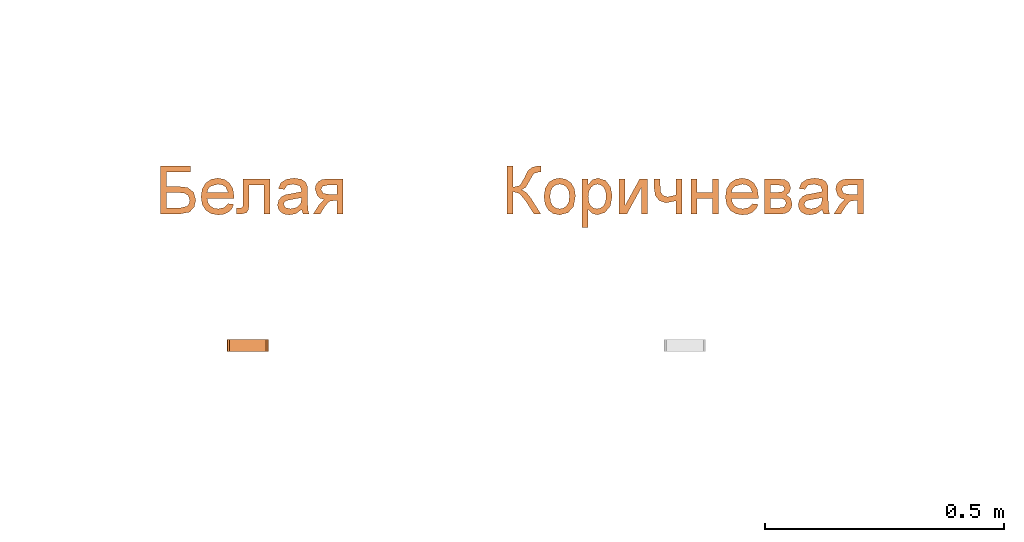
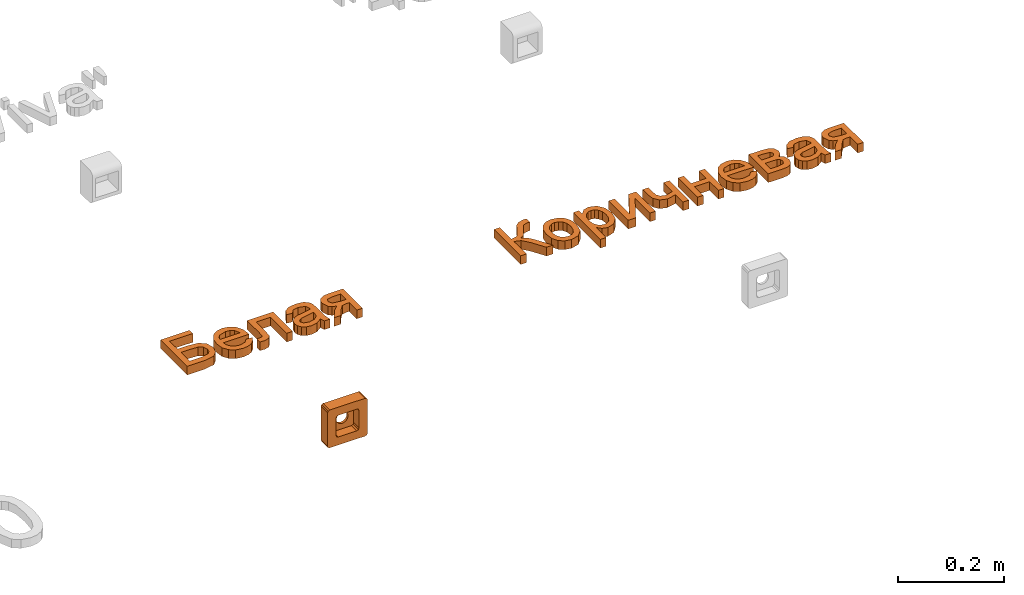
# One storey, part 58 of 87: 3 proxies.
"""IFC2X3 building model written with IfcOpenShell, lengths in millimetres."""

from ifc_helpers import new_model, entity, si_unit, converted_unit, derived_unit, direction, frame, origin, place, context, subcontext, project, spatial, polyline, outline, extrude, faceted_brep, source, transform, mapped, material, type_object, type_shapes, element, save


model = new_model("IFC2X3")

# Units and contexts
model_context = context("Model", 3, precision=0.01, world=origin(), true_north=direction((6.12303176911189e-17, 1.0)))
body_context = subcontext(model_context, "Body", "Model", "MODEL_VIEW")
ifc_project = project(units=[si_unit("LENGTHUNIT", "METRE", prefix="MILLI"), si_unit("AREAUNIT", "SQUARE_METRE"), si_unit("VOLUMEUNIT", "CUBIC_METRE"), converted_unit("PLANEANGLEUNIT", "DEGREE", entity("IfcRatioMeasure", 0.0174532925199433), si_unit("PLANEANGLEUNIT", "RADIAN"), dimensions=[0, 0, 0, 0, 0, 0, 0]), si_unit("MASSUNIT", "GRAM", prefix="KILO"), derived_unit("MASSDENSITYUNIT", [(si_unit("MASSUNIT", "GRAM", prefix="KILO"), 1), (si_unit("LENGTHUNIT", "METRE"), -3)]), si_unit("TIMEUNIT", "SECOND"), si_unit("FREQUENCYUNIT", "HERTZ"), si_unit("THERMODYNAMICTEMPERATUREUNIT", "DEGREE_CELSIUS"), derived_unit("THERMALTRANSMITTANCEUNIT", [(si_unit("MASSUNIT", "GRAM", prefix="KILO"), 1), (si_unit("THERMODYNAMICTEMPERATUREUNIT", "KELVIN"), -1), (si_unit("TIMEUNIT", "SECOND"), -3)]), derived_unit("VOLUMETRICFLOWRATEUNIT", [(si_unit("LENGTHUNIT", "METRE"), 3), (si_unit("TIMEUNIT", "SECOND"), -1)]), si_unit("ELECTRICCURRENTUNIT", "AMPERE"), si_unit("ELECTRICVOLTAGEUNIT", "VOLT"), si_unit("POWERUNIT", "WATT"), si_unit("FORCEUNIT", "NEWTON", prefix="KILO"), si_unit("ILLUMINANCEUNIT", "LUX"), si_unit("LUMINOUSFLUXUNIT", "LUMEN"), si_unit("LUMINOUSINTENSITYUNIT", "CANDELA"), derived_unit("USERDEFINED", [(si_unit("MASSUNIT", "GRAM", prefix="KILO"), -1), (si_unit("LENGTHUNIT", "METRE"), -2), (si_unit("TIMEUNIT", "SECOND"), 3), (si_unit("LUMINOUSFLUXUNIT", "LUMEN"), 1)]), derived_unit("LINEARVELOCITYUNIT", [(si_unit("LENGTHUNIT", "METRE"), 1), (si_unit("TIMEUNIT", "SECOND"), -1)]), si_unit("PRESSUREUNIT", "PASCAL"), derived_unit("USERDEFINED", [(si_unit("LENGTHUNIT", "METRE"), -2), (si_unit("MASSUNIT", "GRAM", prefix="KILO"), 1), (si_unit("TIMEUNIT", "SECOND"), -2)])], contexts=[model_context])

# Site, building, storey
site_placement = place(None, origin())
site = spatial("IfcSite", under=ifc_project, at=site_placement, Name="Default", CompositionType="ELEMENT")
building_placement = place(site_placement, origin())
building = spatial("IfcBuilding", under=site, at=building_placement, Name="Наименование здания", CompositionType="ELEMENT")
storey_placement = place(building_placement, origin())
storey = spatial("IfcBuildingStorey", under=building, at=storey_placement, Name="Этаж 01", CompositionType="ELEMENT", Elevation=0.0)

# Proxies
ifc_material = material(Name="DKC_Пластик_Белый")
building_element_proxy_type = type_object("IfcBuildingElementProxyType", Name="Белая", PredefinedType="NOTDEFINED", material=ifc_material)
shared_shape = source(origin(), body_context, "Body", "Brep", [
    faceted_brep([(43.5000000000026, 0.0, 38.4999999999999), (42.0355339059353, 0.0, 42.0355339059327), (38.5000000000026, 0.0, 43.4999999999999), (23.5355339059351, 0.0, 23.5355339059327), (25.0, 0.0, 20.0), (25.0, 0.0, -20.0), (43.5000000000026, 0.0, -38.4999999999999), (20.0, 0.0, 25.0), (-20.0, 0.0, 25.0), (-38.5000000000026, 0.0, 43.4999999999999), (-23.5355339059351, 0.0, 23.5355339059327), (-43.5000000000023, 0.0, 38.4999999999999), (-42.0355339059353, 0.0, 42.0355339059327), (-25.0, 0.0, 20.0), (-25.0, 0.0, -20.0), (-43.5000000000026, 0.0, -38.4999999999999), (-23.5355339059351, 0.0, -23.5355339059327), (-38.5000000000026, 0.0, -43.4999999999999), (-42.0355339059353, 0.0, -42.0355339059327), (-20.0, 0.0, -25.0), (38.5000000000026, 0.0, -43.4999999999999), (42.0355339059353, 0.0, -42.0355339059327), (23.5355339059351, 0.0, -23.5355339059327), (20.0, 0.0, -25.0), (-42.0355339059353, 25.3999999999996, 42.0355339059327), (-38.5000000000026, 25.3999999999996, 43.4999999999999), (-43.5000000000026, 25.3999999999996, 38.4999999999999), (-8.98025612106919, 25.3999999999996, 8.98025612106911), (-6.35000000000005, 25.3999999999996, 10.9985226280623), (-3.28700187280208, 25.3999999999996, 12.2672579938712), (0.0, 25.3999999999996, 12.7), (38.5000000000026, 25.3999999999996, 43.4999999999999), (3.28700187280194, 25.3999999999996, 12.2672579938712), (6.34999999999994, 25.3999999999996, 10.9985226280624), (8.9802561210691, 25.3999999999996, 8.98025612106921), (43.5000000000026, 25.3999999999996, 38.4999999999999), (42.0355339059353, 25.3999999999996, 42.0355339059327), (10.9985226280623, 25.3999999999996, 6.35000000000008), (12.2672579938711, 25.3999999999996, 3.2870018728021), (12.7, 25.3999999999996, 0.0), (43.5000000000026, 25.3999999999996, -38.4999999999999), (12.2672579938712, 25.3999999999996, -3.28700187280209), (10.9985226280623, 25.3999999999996, -6.35000000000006), (8.98025612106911, 25.3999999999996, -8.98025612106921), (38.5000000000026, 25.3999999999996, -43.4999999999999), (42.0355339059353, 25.3999999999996, -42.0355339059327), (6.34999999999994, 25.3999999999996, -10.9985226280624), (3.28700187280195, 25.3999999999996, -12.2672579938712), (0.0, 25.3999999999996, -12.7), (-38.5000000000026, 25.3999999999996, -43.4999999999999), (-3.28700187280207, 25.3999999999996, -12.2672579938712), (-6.35000000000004, 25.3999999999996, -10.9985226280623), (-8.98025612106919, 25.3999999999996, -8.98025612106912), (-43.5000000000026, 25.3999999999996, -38.4999999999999), (-42.0355339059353, 25.3999999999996, -42.0355339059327), (-12.7, 25.3999999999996, 0.0), (-12.2672579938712, 25.3999999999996, -3.28700187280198), (-10.9985226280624, 25.3999999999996, -6.34999999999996), (-10.9985226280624, 25.3999999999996, 6.34999999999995), (-12.2672579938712, 25.3999999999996, 3.28700187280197), (-25.0, 20.0, 20.0), (-20.0, 20.0, 25.0), (-23.5355339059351, 20.0, 23.5355339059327), (-8.98025612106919, 20.0, 8.98025612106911), (-10.9985226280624, 20.0, 6.34999999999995), (-12.2672579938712, 20.0, 3.28700187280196), (-12.7, 20.0, 0.0), (-25.0, 20.0, -20.0), (-12.2672579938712, 20.0, -3.28700187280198), (-10.9985226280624, 20.0, -6.34999999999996), (-8.98025612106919, 20.0, -8.98025612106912), (-20.0, 20.0, -25.0), (-23.5355339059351, 20.0, -23.5355339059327), (-6.35000000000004, 20.0, -10.9985226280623), (-3.28700187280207, 20.0, -12.2672579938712), (0.0, 20.0, -12.7), (20.0, 20.0, -25.0), (3.28700187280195, 20.0, -12.2672579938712), (6.34999999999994, 20.0, -10.9985226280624), (8.98025612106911, 20.0, -8.9802561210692), (25.0, 20.0, -20.0), (23.5355339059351, 20.0, -23.5355339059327), (10.9985226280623, 20.0, -6.35000000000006), (12.2672579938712, 20.0, -3.28700187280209), (12.7, 20.0, 0.0), (25.0, 20.0, 20.0), (12.2672579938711, 20.0, 3.2870018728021), (10.9985226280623, 20.0, 6.35000000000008), (8.9802561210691, 20.0, 8.98025612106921), (20.0, 20.0, 25.0), (23.5355339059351, 20.0, 23.5355339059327), (0.0, 20.0, 12.7), (6.34999999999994, 20.0, 10.9985226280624), (3.28700187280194, 20.0, 12.2672579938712), (-6.35000000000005, 20.0, 10.9985226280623), (-3.28700187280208, 20.0, 12.2672579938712)], [[[0, 1, 2]], [[0, 2, 3]], [[3, 4, 0]], [[0, 4, 5]], [[6, 0, 5]], [[7, 3, 2]], [[2, 8, 7]], [[8, 2, 9]], [[10, 8, 9]], [[9, 11, 10]], [[9, 12, 11]], [[13, 10, 11]], [[13, 11, 14]], [[14, 11, 15]], [[16, 14, 15]], [[15, 17, 16]], [[17, 15, 18]], [[19, 16, 17]], [[19, 17, 20]], [[6, 20, 21]], [[20, 6, 22]], [[22, 23, 20]], [[20, 23, 19]], [[5, 22, 6]], [[24, 25, 26]], [[26, 25, 27]], [[28, 27, 25]], [[29, 28, 25]], [[30, 29, 25]], [[25, 31, 30]], [[32, 30, 31]], [[33, 32, 31]], [[33, 31, 34]], [[35, 34, 31]], [[31, 36, 35]], [[37, 34, 35]], [[38, 37, 35]], [[38, 35, 39]], [[39, 35, 40]], [[41, 39, 40]], [[42, 41, 40]], [[40, 43, 42]], [[44, 43, 40]], [[44, 40, 45]], [[46, 43, 44]], [[46, 44, 47]], [[48, 47, 44]], [[48, 44, 49]], [[49, 50, 48]], [[51, 50, 49]], [[52, 51, 49]], [[49, 53, 52]], [[49, 54, 53]], [[55, 53, 26]], [[53, 55, 56]], [[56, 57, 53]], [[57, 52, 53]], [[27, 58, 26]], [[58, 59, 26]], [[26, 59, 55]], [[9, 2, 31, 25]], [[9, 25, 24, 12]], [[24, 26, 11, 12]], [[15, 11, 26, 53]], [[15, 53, 54, 18]], [[54, 49, 17, 18]], [[20, 17, 49, 44]], [[20, 44, 45, 21]], [[45, 40, 6, 21]], [[0, 6, 40, 35]], [[0, 35, 36, 1]], [[36, 31, 2, 1]], [[60, 61, 62]], [[63, 61, 60]], [[60, 64, 63]], [[60, 65, 64]], [[66, 65, 60]], [[60, 67, 66]], [[68, 66, 67]], [[67, 69, 68]], [[67, 70, 69]], [[70, 67, 71]], [[67, 72, 71]], [[71, 73, 70]], [[71, 74, 73]], [[75, 74, 71]], [[71, 76, 75]], [[76, 77, 75]], [[77, 76, 78]], [[76, 79, 78]], [[80, 79, 76]], [[81, 80, 76]], [[82, 79, 80]], [[80, 83, 82]], [[80, 84, 83]], [[80, 85, 84]], [[84, 85, 86]], [[85, 87, 86]], [[85, 88, 87]], [[89, 88, 85]], [[85, 90, 89]], [[91, 89, 61]], [[88, 89, 92]], [[89, 93, 92]], [[89, 91, 93]], [[61, 63, 94]], [[61, 94, 95]], [[61, 95, 91]], [[89, 7, 8, 61]], [[10, 62, 61, 8]], [[13, 60, 62, 10]], [[60, 13, 14, 67]], [[16, 72, 67, 14]], [[19, 71, 72, 16]], [[71, 19, 23, 76]], [[22, 81, 76, 23]], [[5, 80, 81, 22]], [[80, 5, 4, 85]], [[3, 90, 85, 4]], [[7, 89, 90, 3]], [[55, 66, 68, 56]], [[56, 68, 69, 57]], [[51, 52, 70, 73]], [[70, 52, 57, 69]], [[50, 51, 73, 74]], [[50, 74, 75, 48]], [[48, 75, 77, 47]], [[47, 77, 78, 46]], [[42, 43, 79, 82]], [[79, 43, 46, 78]], [[41, 42, 82, 83]], [[41, 83, 84, 39]], [[39, 84, 86, 38]], [[38, 86, 87, 37]], [[33, 34, 88, 92]], [[88, 34, 37, 87]], [[32, 33, 92, 93]], [[32, 93, 91, 30]], [[30, 91, 95, 29]], [[29, 95, 94, 28]], [[58, 27, 63, 64]], [[63, 27, 28, 94]], [[59, 58, 64, 65]], [[59, 65, 66, 55]]]),
])
type_shapes(building_element_proxy_type, [shared_shape])
proxy_1_placement = place(storey_placement, frame((44616.893252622, 2221.32487936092, 0.0)))
element("IfcBuildingElementProxy", 1, at=proxy_1_placement, inside=storey, type_object=building_element_proxy_type, material=ifc_material, Name="КНС_КоробкаМонтажнаяПод2МодуляЭлектроустановочныхИзделийPDD-N60_ILF_DKC:Белая", ObjectType="Белая", context=body_context, shape_type="MappedRepresentation", body=[
    mapped(shared_shape, transform((0.0, 0.0, 0.0), scale=1.0)),
])
proxy_2_placement = place(storey_placement, origin())
element("IfcBuildingElementProxy", 2, at=proxy_2_placement, inside=storey, Name="Текст модели:100 мм Arial", ObjectType="Текст модели:100 мм Arial", context=body_context, shape_type="SweptSolid", body=[
    extrude(outline(polyline([(-50.9950475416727, -42.7620371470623), (49.4612626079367, -42.7620371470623), (49.4612626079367, -4.42873324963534), (45.2428823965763, 17.8649156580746), (34.3658380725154, 27.7118903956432), (20.0552284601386, 31.0105656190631), (3.57411507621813, 26.3752524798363), (-6.06439319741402, 14.0389429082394), (-8.61504169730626, -6.68507615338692), (-8.61504169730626, -30.2049983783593), (-38.4380087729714, -30.2049983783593), (-38.4380087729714, 20.0231566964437), (-50.9950475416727, 20.0231566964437), (-50.9950475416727, -42.7620371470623)]), holes=[polyline([(36.9042238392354, -30.2049983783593), (3.94199707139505, -30.2049983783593), (3.94199707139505, -12.2523570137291), (5.24184678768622, 6.66904027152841), (10.4902965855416, 15.3387926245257), (20.3250085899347, 18.4535268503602), (27.5784152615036, 17.0923634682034), (32.7594200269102, 13.0088733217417), (36.9042238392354, -3.30056179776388), (36.9042238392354, -30.2049983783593)])]), frame((44477.0056436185, 2558.52790805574, 0.0), z_axis=(0.0, 0.0, 1.0), x_axis=(0.0, -1.0, 0.0)), (0.0, 0.0, 1.0), 20.0),
    extrude(outline(polyline([(-8.10128238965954, -20.375172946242), (-15.5352214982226, -30.3140016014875), (-5.78400372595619, -33.577507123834), (4.12185089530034, -33.313217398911), (13.877616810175, -29.4480778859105), (23.1785684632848, -21.909034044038), (31.6380426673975, -9.59237957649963), (34.1620486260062, 3.74135328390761), (30.6040508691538, 17.2442201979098), (20.817513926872, 30.0682768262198), (7.27698270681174, 39.7846728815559), (-6.66179525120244, 43.1117813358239), (-19.9642596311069, 40.422123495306), (-31.5958501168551, 32.0882206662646), (-39.2435519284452, 20.5090048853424), (-41.3106827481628, 7.34319797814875), (-37.4373707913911, -6.34962495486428), (-27.2637442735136, -19.5098888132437), (-24.7804584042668, -21.8106804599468), (14.4643272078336, 18.7422646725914), (19.7071986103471, 10.6437992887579), (21.1614672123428, 2.21005051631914), (19.1472085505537, -5.98136753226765), (13.9844981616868, -13.3528407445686), (3.53684605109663, -20.375172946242), (-8.10128238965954, -20.375172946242)]), holes=[polyline([(5.44081225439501, 27.4746984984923), (-25.122706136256, -4.10760383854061), (-29.8038819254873, 7.41909510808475), (-27.8851342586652, 15.7498710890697), (-22.5382240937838, 23.3910349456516), (-8.40970331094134, 31.2368652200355), (-1.08072680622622, 30.9147288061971), (5.44081225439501, 27.4746984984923)])]), frame((44555.0876915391, 2539.38919627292, 0.0), z_axis=(0.0, 0.0, -1.0), x_axis=(-0.69542142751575, -0.718602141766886, 0.0)), (0.0, 0.0, -1.0), 20.0),
    extrude(outline(polyline([(-49.3689973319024, 12.5447760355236), (-49.3689973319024, -43.9618984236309), (24.3300290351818, -43.9618984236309), (24.3300290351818, -31.404859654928), (-36.8119585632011, -31.404859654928), (-36.8119585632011, -0.0122627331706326), (-1.61791435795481, -0.0122627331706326), (14.6179443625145, 0.833865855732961), (21.4728122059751, 5.4814417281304), (24.403605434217, 16.4688506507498), (23.765943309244, 26.6714446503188), (11.8465666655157, 26.6714446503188), (11.8465666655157, 21.0551128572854), (11.0740144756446, 15.3774673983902), (8.62146784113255, 13.108861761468), (-2.32915288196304, 12.5447760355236), (-49.3689973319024, 12.5447760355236)])), frame((44619.4476655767, 2533.47025088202, 0.0), z_axis=(0.0, 0.0, -1.0), x_axis=(0.0, -1.0, 0.0)), (0.0, 0.0, -1.0), 20.0),
    extrude(outline(polyline([(32.0508237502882, 7.88266535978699), (41.9780345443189, 7.88266535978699), (45.9489188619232, 19.7953183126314), (35.1414436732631, 20.7608946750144), (14.2438893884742, 27.0545912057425), (-0.57712610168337, 31.9949297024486), (-11.1945882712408, 34.8877809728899), (-20.4974705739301, 33.9299602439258), (-28.5323068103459, 27.5470739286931), (-35.4619652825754, 13.8157249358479), (-38.3044049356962, -2.69989645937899), (-34.9462156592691, -15.3493345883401), (-25.0306383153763, -24.380769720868), (-19.570672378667, -12.964477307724), (-25.7868125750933, -4.50695904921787), (-24.0611841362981, 8.30922519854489), (-16.2279943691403, 20.3304570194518), (-6.33956174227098, 20.6794605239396), (-3.71040200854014, 19.7255176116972), (-6.50243004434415, -2.30048133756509), (-8.14662433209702, -13.2049019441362), (-7.01817966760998, -22.8490321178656), (-2.17478658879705, -31.1204151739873), (6.48825595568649, -36.5416029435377), (15.0010331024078, -37.7020395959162), (22.9495879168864, -35.3200906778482), (29.6378522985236, -29.3899394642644), (34.3697581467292, -19.9057692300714), (36.2737661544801, -6.36055543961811), (32.0508237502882, 7.88266535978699)]), holes=[polyline([(8.22551784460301, 15.8244339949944), (11.5759514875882, 14.6300664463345), (20.1614376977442, 9.67421668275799), (24.4696920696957, -0.396473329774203), (23.3024692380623, -13.3987927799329), (17.24919734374, -22.9498553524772), (9.62153186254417, -24.3497471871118), (5.58084684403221, -21.1932043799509), (3.9870641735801, -15.5044472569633), (5.47226797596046, -4.61166010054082), (8.22551784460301, 15.8244339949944)])]), frame((44711.7205041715, 2546.39778804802, 0.0), z_axis=(0.0, 0.0, 1.0), x_axis=(0.316227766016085, -0.948683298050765, 0.0)), (0.0, 0.0, 1.0), 20.0),
    extrude(outline(polyline([(-36.1880068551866, -39.1855638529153), (-3.42198381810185, -39.1855638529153), (7.43666640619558, -37.7079045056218), (15.3890488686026, -33.2749264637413), (20.2634853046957, -26.4691095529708), (21.8882974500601, -17.8729335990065), (17.1303569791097, -3.64816311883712), (11.0970922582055, 1.34890064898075), (2.51317903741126, 3.97925691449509), (13.2062823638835, 14.4271055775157), (25.8123720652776, 34.5870389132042), (11.2932959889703, 34.5870389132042), (1.28690572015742, 18.6454857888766), (-7.46868576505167, 7.92785699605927), (-16.7883629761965, 6.33370168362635), (-23.6309680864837, 6.33370168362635), (-23.6309680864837, 34.5870389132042), (-36.1880068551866, 34.5870389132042), (-36.1880068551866, -39.1855638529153)]), holes=[polyline([(-23.6309680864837, -26.628525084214), (-23.6309680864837, -6.22333708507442), (-10.7796237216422, -6.22333708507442), (4.90441200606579, -8.81077378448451), (9.33125868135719, -16.9164404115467), (6.3268890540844, -23.7222573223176), (-7.07627830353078, -26.628525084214), (-23.6309680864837, -26.628525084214)])]), frame((44779.4756522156, 2543.65368436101, 0.0), z_axis=(0.0, 0.0, 1.0), x_axis=(-1.0, 0.0, 0.0)), (0.0, 0.0, 1.0), 20.0),
])
proxy_3_placement = place(storey_placement, origin())
element("IfcBuildingElementProxy", 3, at=proxy_3_placement, inside=storey, Name="Текст модели:100 мм Arial", ObjectType="Текст модели:100 мм Arial", context=body_context, shape_type="SweptSolid", body=[
    extrude(outline(polyline([(-40.1432833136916, -39.8663907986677), (60.3130268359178, -39.8663907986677), (60.3130268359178, -27.3093520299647), (13.2241314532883, -27.3093520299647), (17.2340452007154, -14.2250157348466), (32.0106386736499, -1.65571423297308), (60.3130268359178, 16.1988252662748), (60.3130268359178, 30.766952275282), (26.8112398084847, 9.65052575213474), (14.9777022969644, 0.0917252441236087), (9.3000568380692, -9.60196532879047), (4.10065797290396, -0.932212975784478), (-24.5696121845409, 15.414010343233), (-27.5862445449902, 25.2241968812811), (-27.4390917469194, 30.766952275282), (-39.9961305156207, 30.766952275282), (-40.1432833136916, 22.5263955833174), (-37.3228546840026, 11.30599473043), (-30.3698849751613, 3.45784549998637), (-16.3290554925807, -3.47059874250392), (0.483151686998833, -13.2685225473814), (3.80635237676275, -27.3093520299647), (-40.1432833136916, -27.3093520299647), (-40.1432833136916, -39.8663907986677)])), frame((45199.7154625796, 2569.37967228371, 0.0), z_axis=(0.0, 0.0, 1.0), x_axis=(0.0, -1.0, 0.0)), (0.0, 0.0, 1.0), 20.0),
    extrude(outline(polyline([(-2.3402974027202, -31.6984909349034), (14.2731811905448, -31.6984909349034), (27.1869525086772, -26.5873672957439), (35.990959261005, -17.1811275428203), (40.2751441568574, -4.29577920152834), (38.1491713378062, 13.1690451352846), (27.2514955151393, 26.6485362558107), (5.67797919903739, 33.7446283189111), (-10.1280544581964, 33.6081083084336), (-22.8059382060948, 28.3900569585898), (-31.6389568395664, 18.9754531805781), (-35.9103951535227, 6.24927588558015), (-35.5406401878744, -5.97109031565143), (-30.8535887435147, -16.7835237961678), (-19.5870121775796, -26.5692340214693), (-2.3402974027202, -31.6984909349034)]), holes=[polyline([(-0.642949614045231, -19.2566729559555), (-11.6948097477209, -16.259966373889), (-19.0989004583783, -10.8341828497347), (-22.9822632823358, -3.67356758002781), (-23.47193975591, 4.52763423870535), (-20.7783225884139, 12.2046648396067), (-15.0781786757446, 18.035705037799), (-6.56600936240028, 21.2863283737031), (4.56368400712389, 21.2221083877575), (15.8675929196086, 18.1905150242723), (23.396189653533, 12.7474982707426), (27.3267847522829, 5.59272509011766), (27.8366887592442, -2.57413755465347), (25.1317228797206, -10.3331599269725), (19.431158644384, -16.1672368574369), (10.813449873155, -19.3753979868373), (-0.642949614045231, -19.2566729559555)])]), frame((45268.4809461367, 2547.98079413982, 0.0), z_axis=(0.0, 0.0, 1.0), x_axis=(0.13710570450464, -0.99055642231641, 0.0)), (0.0, 0.0, 1.0), 20.0),
    extrude(outline(polyline([(-28.8983569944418, -61.2335493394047), (-16.3413182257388, -61.2335493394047), (-16.3413182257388, -23.1700255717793), (-8.38280439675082, -31.324743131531), (2.54329085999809, -34.5498419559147), (18.4235303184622, -29.7305878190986), (29.9259740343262, -15.8736993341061), (33.8868368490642, 4.4701749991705), (30.3796951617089, 23.82076794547), (19.9808974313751, 37.5059781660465), (4.0638697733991, 42.3620205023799), (-7.65930313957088, 38.8916670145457), (-16.3413182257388, 28.4806065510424), (-16.3413182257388, 40.7923906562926), (-28.8983569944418, 40.7923906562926), (-28.8983569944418, -61.2335493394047)]), holes=[polyline([(-16.3413182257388, 3.3174780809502), (-14.8912500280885, 14.7064915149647), (-10.54104543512, 23.0236902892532), (-4.30851130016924, 28.1096588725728), (2.78854552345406, 29.8049817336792), (9.85801119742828, 28.2108264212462), (15.8606190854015, 23.428360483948), (19.9625033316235, 15.4453211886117), (21.3297980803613, 4.24944580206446), (19.9287808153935, -7.43080754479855), (15.7257290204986, -15.5916564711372), (9.56063991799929, -20.3925165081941), (2.27351073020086, -21.9928031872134), (-4.8971224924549, -20.4476988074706), (-10.9089274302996, -15.8123856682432), (-14.9832205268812, -7.93971097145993), (-16.3413182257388, 3.3174780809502)])]), frame((45345.7104133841, 2542.04685755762, 0.0)), (0.0, 0.0, 1.0), 20.0),
    extrude(outline(polyline([(-36.9206370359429, -29.8425874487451), (36.8519657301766, -29.8425874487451), (36.8519657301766, -13.4105249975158), (-19.0660975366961, 17.2463079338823), (36.8519657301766, 17.2463079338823), (36.8519657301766, 29.8033467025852), (-36.9206370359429, 29.8033467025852), (-36.9206370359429, 13.5674879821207), (19.3407827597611, -17.2855486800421), (-36.9206370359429, -17.2855486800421), (-36.9206370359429, -29.8425874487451)])), frame((45423.5665062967, 2545.91861117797, 0.0), z_axis=(0.0, 0.0, 1.0), x_axis=(0.0, -1.0, 0.0)), (0.0, 0.0, 1.0), 20.0),
    extrude(outline(polyline([(-30.7618325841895, -26.323489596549), (-10.4056955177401, -26.323489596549), (3.94170229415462, -24.1161976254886), (14.9658994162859, -15.7407508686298), (19.4663224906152, -1.50371765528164), (15.1498404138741, 19.1957759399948), (43.0107701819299, 19.1957759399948), (43.0107701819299, 31.7528147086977), (-30.7618325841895, 31.7528147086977), (-30.7618325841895, 19.1957759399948), (3.10783643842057, 19.1957759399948), (6.90928372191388, 1.85627123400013), (3.8436004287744, -7.85581343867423), (-3.34236121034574, -12.748643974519), (-16.6106385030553, -13.7664508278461), (-30.7618325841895, -13.7664508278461), (-30.7618325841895, -26.323489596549)])), frame((45493.8200112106, 2552.07741562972, 0.0), z_axis=(0.0, 0.0, 1.0), x_axis=(0.0, -1.0, 0.0)), (0.0, 0.0, 1.0), 20.0),
    extrude(outline(polyline([(-36.1014864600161, -29.0381521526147), (37.6711163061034, -29.0381521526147), (37.6711163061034, -16.4811133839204), (4.70888953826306, -16.4811133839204), (4.70888953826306, 16.4811133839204), (37.6711163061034, 16.4811133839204), (37.6711163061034, 29.0381521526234), (-36.1014864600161, 29.0381521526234), (-36.1014864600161, 16.4811133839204), (-7.84814923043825, 16.4811133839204), (-7.84814923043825, -16.4811133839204), (-36.1014864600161, -16.4811133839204), (-36.1014864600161, -29.0381521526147)])), frame((45573.446536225, 2546.7377617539, 0.0), z_axis=(0.0, 0.0, 1.0), x_axis=(0.0, -1.0, 0.0)), (0.0, 0.0, 1.0), 20.0),
    extrude(outline(polyline([(-8.10128238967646, -20.3751729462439), (-15.5352214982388, -30.3140016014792), (-5.78400372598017, -33.5775071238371), (4.12185089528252, -33.3132173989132), (13.8776168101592, -29.4480778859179), (23.1785684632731, -21.9090340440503), (31.6380426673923, -9.59237957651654), (34.1620486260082, 3.74135328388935), (30.604050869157, 17.2442201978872), (20.817513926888, 30.0682768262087), (7.27698270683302, 39.784672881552), (-6.66179525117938, 43.1117813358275), (-19.9642596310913, 40.4221234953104), (-31.5958501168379, 32.0882206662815), (-39.2435519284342, 20.5090048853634), (-41.3106827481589, 7.34319797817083), (-37.4373707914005, -6.34962495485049), (-27.2637442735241, -19.5098888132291), (-24.7804584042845, -21.8106804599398), (14.4643272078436, 18.7422646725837), (19.7071986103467, 10.6437992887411), (21.161467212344, 2.21005051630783), (19.1472085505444, -5.98136753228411), (13.9844981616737, -13.3528407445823), (3.53684605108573, -20.3751729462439), (-8.10128238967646, -20.3751729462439)]), holes=[polyline([(5.44081225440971, 27.4746984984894), (-25.1227061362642, -4.1076038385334), (-29.8038819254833, 7.41909510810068), (-27.8851342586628, 15.7498710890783), (-22.5382240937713, 23.3910349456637), (-8.40970331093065, 31.2368652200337), (-1.0807268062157, 30.9147288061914), (5.44081225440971, 27.4746984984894)])]), frame((45652.6954303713, 2539.38919627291, 0.0), z_axis=(0.0, 0.0, -1.0), x_axis=(-0.695421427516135, -0.718602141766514, 0.0)), (0.0, 0.0, -1.0), 20.0),
    extrude(outline(polyline([(-37.9619182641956, -40.7346098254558), (35.8106845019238, -40.7346098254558), (35.8106845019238, -8.82697811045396), (34.4801779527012, 2.14816807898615), (30.4886583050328, 10.1557328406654), (23.7502864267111, 15.2141102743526), (14.1792231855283, 17.3416944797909), (2.34568567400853, 13.9817055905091), (-4.46013123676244, 5.54494516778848), (-10.6773369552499, 12.044193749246), (-19.3961402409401, 14.2024347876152), (-30.1260317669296, 10.633979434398), (-36.2819238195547, 2.09911714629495), (-37.9619182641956, -13.0698837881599), (-37.9619182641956, -40.7346098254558)]), holes=[polyline([(-9.7085810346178, -28.1775710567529), (-25.4048794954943, -28.1775710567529), (-25.4048794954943, -15.3752776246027), (-23.663571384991, -2.2051021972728), (-17.5076793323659, 1.64539601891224), (-12.8968916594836, -0.54963321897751), (-10.3462431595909, -5.52830288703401), (-9.7085810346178, -15.7676850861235), (-9.7085810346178, -28.1775710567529)]), polyline([(23.2536457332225, -28.1775710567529), (2.84845773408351, -28.1775710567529), (2.84845773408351, -14.0018515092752), (3.58422172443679, -2.95312892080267), (7.1036261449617, 2.63867740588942), (13.1491535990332, 4.78465571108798), (20.9850400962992, 0.88510656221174), (23.2536457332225, -12.7755781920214), (23.2536457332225, -28.1775710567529)])]), frame((45738.9667188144, 2544.87732994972, 0.0), z_axis=(0.0, 0.0, 1.0), x_axis=(0.0, -1.0, 0.0)), (0.0, 0.0, 1.0), 20.0),
    extrude(outline(polyline([(32.0508237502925, 7.88266535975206), (41.9780345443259, 7.88266535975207), (45.9489188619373, 19.795318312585), (35.141443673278, 20.7608946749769), (14.2438893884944, 27.0545912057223), (-0.577126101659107, 31.9949297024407), (-11.1945882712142, 34.8877809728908), (-20.4974705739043, 33.9299602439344), (-28.5323068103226, 27.5470739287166), (-35.4619652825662, 13.8157249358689), (-38.3044049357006, -2.69989645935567), (-34.946215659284, -15.3493345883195), (-25.0306383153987, -24.3807697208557), (-19.57067237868, -12.9644773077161), (-25.7868125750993, -4.50695904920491), (-24.0611841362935, 8.30922519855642), (-16.2279943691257, 20.3304570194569), (-6.33956174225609, 20.6794605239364), (-3.71040200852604, 19.7255176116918), (-6.50243004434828, -2.30048133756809), (-8.14662433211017, -13.2049019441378), (-7.01817966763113, -22.8490321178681), (-2.17478658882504, -31.1204151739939), (6.48825595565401, -36.5416029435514), (15.0010331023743, -37.7020395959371), (22.9495879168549, -35.3200906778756), (29.6378522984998, -29.3899394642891), (34.3697581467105, -19.9057692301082), (36.2737661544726, -6.36055543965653), (32.0508237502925, 7.88266535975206)]), holes=[polyline([(8.22551784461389, 15.8244339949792), (11.5759514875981, 14.6300664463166), (20.16143769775, 9.67421668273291), (24.4696920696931, -0.39647332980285), (23.302469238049, -13.3987927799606), (17.2491973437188, -22.9498553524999), (9.62153186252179, -24.3497471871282), (5.58084684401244, -21.1932043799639), (3.98706417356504, -15.504447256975), (5.47226797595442, -4.61166010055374), (8.22551784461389, 15.8244339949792)])]), frame((45801.4800937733, 2546.39778804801, 0.0), z_axis=(0.0, 0.0, 1.0), x_axis=(0.316227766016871, -0.948683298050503, 0.0)), (0.0, 0.0, 1.0), 20.0),
    extrude(outline(polyline([(-36.1880068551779, -39.1855638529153), (-3.42198381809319, -39.1855638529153), (7.43666640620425, -37.7079045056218), (15.3890488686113, -33.2749264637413), (20.2634853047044, -26.4691095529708), (21.8882974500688, -17.8729335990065), (17.1303569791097, -3.64816311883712), (11.0970922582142, 1.34890064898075), (2.51317903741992, 3.97925691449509), (13.2062823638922, 14.4271055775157), (25.8123720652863, 34.5870389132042), (11.2932959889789, 34.5870389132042), (1.28690572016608, 18.6454857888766), (-7.46868576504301, 7.92785699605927), (-16.7883629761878, 6.33370168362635), (-23.630968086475, 6.33370168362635), (-23.630968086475, 34.5870389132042), (-36.1880068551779, 34.5870389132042), (-36.1880068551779, -39.1855638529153)]), holes=[polyline([(-23.630968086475, -26.628525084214), (-23.630968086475, -6.22333708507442), (-10.7796237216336, -6.22333708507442), (4.90441200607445, -8.81077378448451), (9.33125868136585, -16.9164404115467), (6.32688905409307, -23.7222573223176), (-7.07627830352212, -26.628525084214), (-23.630968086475, -26.628525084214)])]), frame((45869.2352418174, 2543.653684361, 0.0), z_axis=(0.0, 0.0, 1.0), x_axis=(-1.0, 0.0, 0.0)), (0.0, 0.0, 1.0), 20.0),
])

save(model, "model.ifc")
